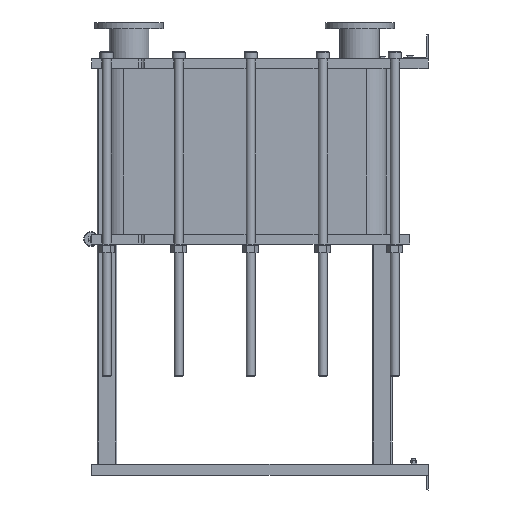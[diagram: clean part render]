
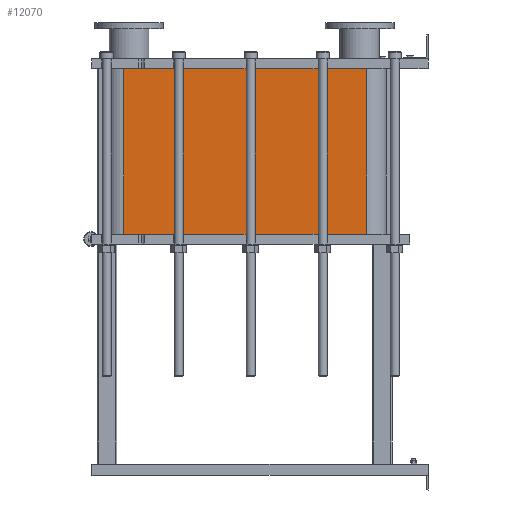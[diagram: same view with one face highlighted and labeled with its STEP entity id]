
A CAD part, left-side view. The second image highlights one B-rep face of the part: STEP entity #12070.
In plain terms, the highlighted planar face has unit normal (-1, 0, 0).
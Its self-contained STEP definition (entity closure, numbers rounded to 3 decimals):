
#1064=LINE('',#21140,#2164);
#1065=LINE('',#21144,#2165);
#1066=LINE('',#21146,#2166);
#1067=LINE('',#21147,#2167);
#2164=VECTOR('',#15790,10.);
#2165=VECTOR('',#15795,10.);
#2166=VECTOR('',#15796,10.);
#2167=VECTOR('',#15797,10.);
#3304=FACE_OUTER_BOUND('',#4091,.T.);
#4091=EDGE_LOOP('',(#9793,#9794,#9795,#9796));
#5677=VERTEX_POINT('',#21137);
#5678=VERTEX_POINT('',#21139);
#5679=VERTEX_POINT('',#21143);
#5680=VERTEX_POINT('',#21145);
#7118=EDGE_CURVE('',#5678,#5677,#1064,.T.);
#7120=EDGE_CURVE('',#5677,#5679,#1065,.T.);
#7121=EDGE_CURVE('',#5680,#5679,#1066,.T.);
#7122=EDGE_CURVE('',#5680,#5678,#1067,.T.);
#9793=ORIENTED_EDGE('',*,*,#7120,.T.);
#9794=ORIENTED_EDGE('',*,*,#7121,.F.);
#9795=ORIENTED_EDGE('',*,*,#7122,.T.);
#9796=ORIENTED_EDGE('',*,*,#7118,.T.);
#11441=PLANE('',#13191);
#12070=ADVANCED_FACE('',(#3304),#11441,.T.);
#13191=AXIS2_PLACEMENT_3D('',#21142,#15793,#15794);
#15790=DIRECTION('',(0.,0.,-1.));
#15793=DIRECTION('center_axis',(-1.,0.,0.));
#15794=DIRECTION('ref_axis',(0.,1.,0.));
#15795=DIRECTION('',(0.,-1.,0.));
#15796=DIRECTION('',(0.,0.,-1.));
#15797=DIRECTION('',(0.,1.,0.));
#21137=CARTESIAN_POINT('',(-248.152,1243.818,-676.2));
#21139=CARTESIAN_POINT('',(-248.152,1243.818,0.));
#21140=CARTESIAN_POINT('',(-248.152,1243.818,0.));
#21142=CARTESIAN_POINT('Origin',(-248.152,251.818,0.));
#21143=CARTESIAN_POINT('',(-248.152,251.818,-676.2));
#21144=CARTESIAN_POINT('',(-248.152,499.818,-676.2));
#21145=CARTESIAN_POINT('',(-248.152,251.818,0.));
#21146=CARTESIAN_POINT('',(-248.152,251.818,0.));
#21147=CARTESIAN_POINT('',(-248.152,251.818,0.));
